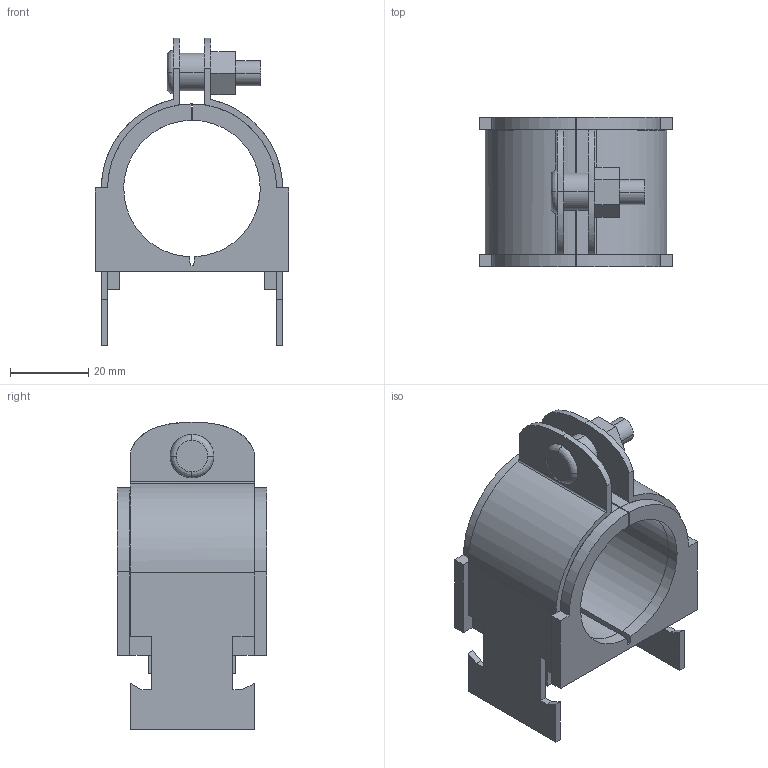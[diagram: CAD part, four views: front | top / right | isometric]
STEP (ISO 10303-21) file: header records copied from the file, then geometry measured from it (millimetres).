
FILE_DESCRIPTION(('TurboCAD Mac Pro'),'Build 980');
FILE_NAME('022T026.stp',' ',(''),(''),'ACIS Interop','IMSI','TurboCAD Mac Pro BY IMSI, INCORPORATED');
FILE_SCHEMA(('automotive_design'));
Length unit declared in the file: inch
Products named in the file (3): 1; 2; 3
Bounding box: 49.4 x 38.1 x 78.49 mm (x, y, z)
Volume: 37162.1 mm3; surface area: 24580.6 mm2
Topology: 3 solids, 3 shells, 146 faces, 380 edges, 244 vertices
Faces by surface type: plane 100, bspline 46
Entity records: 6946 total; most frequent: CARTESIAN_POINT 1715, ORIENTED_EDGE 760, DIRECTION 490, EDGE_CURVE 380, STYLED_ITEM 301, PRESENTATION_STYLE_ASSIGNMENT 301, COLOUR_RGB 301, LINE 276
